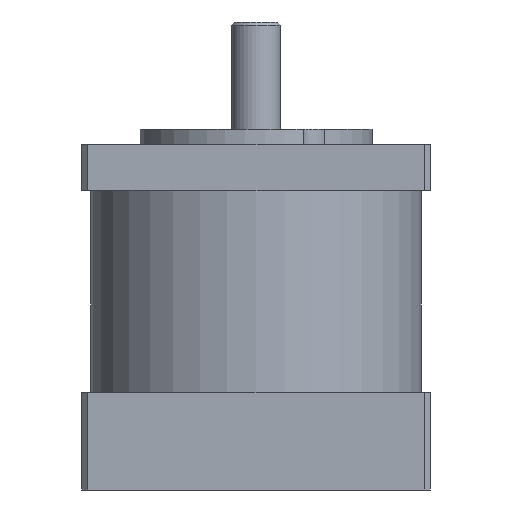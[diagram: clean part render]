
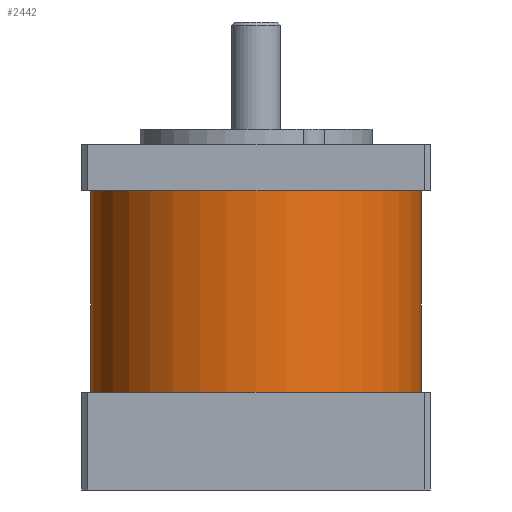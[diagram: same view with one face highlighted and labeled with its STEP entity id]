
A CAD part, front view. The second image highlights one B-rep face of the part: STEP entity #2442.
In plain terms, the highlighted cylindrical face has radius 27 mm (diameter 54 mm), a partial arc.
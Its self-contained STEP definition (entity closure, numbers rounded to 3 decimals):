
#152 = AXIS2_PLACEMENT_3D ( 'NONE', #5999, #2591, #6555 ) ;
#271 = ORIENTED_EDGE ( 'NONE', *, *, #3405, .F. ) ;
#496 = DIRECTION ( 'NONE',  ( 0., 0., -1. ) ) ;
#533 = VECTOR ( 'NONE', #2143, 1000. ) ;
#1031 = CYLINDRICAL_SURFACE ( 'NONE', #7393, 27. ) ;
#1257 = EDGE_CURVE ( 'NONE', #7291, #5128, #6019, .T. ) ;
#1482 = ORIENTED_EDGE ( 'NONE', *, *, #2306, .T. ) ;
#1832 = DIRECTION ( 'NONE',  ( 0., 0., -1. ) ) ;
#2045 = LINE ( 'NONE', #2116, #533 ) ;
#2116 = CARTESIAN_POINT ( 'NONE',  ( 27., 0., 48.9 ) ) ;
#2143 = DIRECTION ( 'NONE',  ( 0., 0., -1. ) ) ;
#2306 = EDGE_CURVE ( 'NONE', #7210, #7291, #3300, .T. ) ;
#2442 = ADVANCED_FACE ( 'NONE', ( #6117 ), #1031, .T. ) ;
#2591 = DIRECTION ( 'NONE',  ( 0., 0., 1. ) ) ;
#2740 = ORIENTED_EDGE ( 'NONE', *, *, #1257, .T. ) ;
#2775 = CARTESIAN_POINT ( 'NONE',  ( 0., 0., 48.9 ) ) ;
#2793 = DIRECTION ( 'NONE',  ( -1., 0., 0. ) ) ;
#2893 = AXIS2_PLACEMENT_3D ( 'NONE', #3155, #7130, #3712 ) ;
#2974 = ORIENTED_EDGE ( 'NONE', *, *, #6067, .F. ) ;
#3155 = CARTESIAN_POINT ( 'NONE',  ( 0., 0., 48.9 ) ) ;
#3241 = CARTESIAN_POINT ( 'NONE',  ( 27., 0., 48.9 ) ) ;
#3300 = LINE ( 'NONE', #5775, #6135 ) ;
#3310 = EDGE_LOOP ( 'NONE', ( #2974, #271, #1482, #2740 ) ) ;
#3405 = EDGE_CURVE ( 'NONE', #7210, #6858, #3608, .T. ) ;
#3608 = CIRCLE ( 'NONE', #2893, 27. ) ;
#3712 = DIRECTION ( 'NONE',  ( 1., 0., 0. ) ) ;
#4761 = CARTESIAN_POINT ( 'NONE',  ( -27., 0., 48.9 ) ) ;
#5128 = VERTEX_POINT ( 'NONE', #6781 ) ;
#5775 = CARTESIAN_POINT ( 'NONE',  ( -27., 0., 48.9 ) ) ;
#5999 = CARTESIAN_POINT ( 'NONE',  ( 0., 0., 16. ) ) ;
#6019 = CIRCLE ( 'NONE', #152, 27. ) ;
#6067 = EDGE_CURVE ( 'NONE', #6858, #5128, #2045, .T. ) ;
#6117 = FACE_OUTER_BOUND ( 'NONE', #3310, .T. ) ;
#6135 = VECTOR ( 'NONE', #1832, 1000. ) ;
#6510 = CARTESIAN_POINT ( 'NONE',  ( -27., 0., 16. ) ) ;
#6555 = DIRECTION ( 'NONE',  ( 1., 0., 0. ) ) ;
#6781 = CARTESIAN_POINT ( 'NONE',  ( 27., 0., 16. ) ) ;
#6858 = VERTEX_POINT ( 'NONE', #3241 ) ;
#7130 = DIRECTION ( 'NONE',  ( 0., 0., 1. ) ) ;
#7210 = VERTEX_POINT ( 'NONE', #4761 ) ;
#7291 = VERTEX_POINT ( 'NONE', #6510 ) ;
#7393 = AXIS2_PLACEMENT_3D ( 'NONE', #2775, #496, #2793 ) ;
